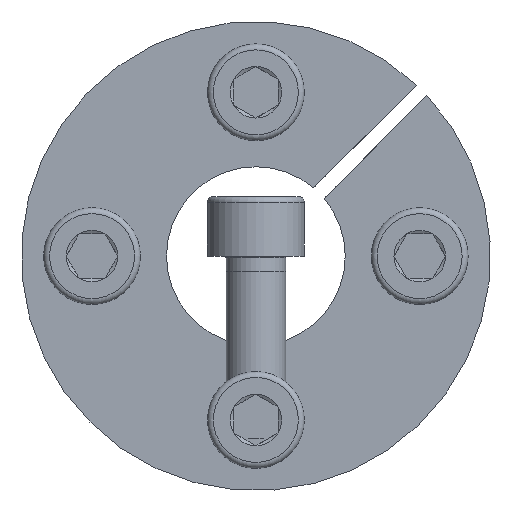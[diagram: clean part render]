
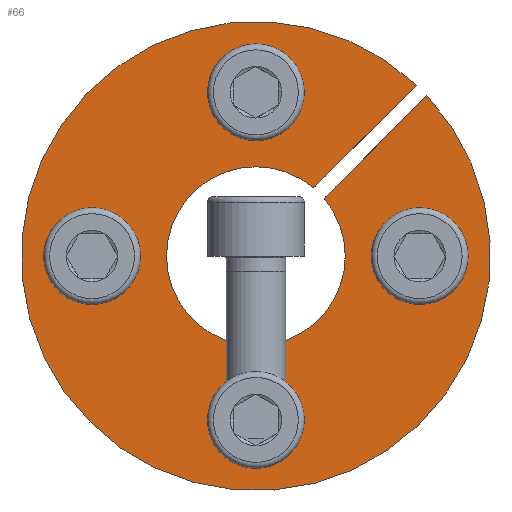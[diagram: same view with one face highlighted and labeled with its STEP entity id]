
A CAD part, front view. The second image highlights one B-rep face of the part: STEP entity #66.
In plain terms, the highlighted planar face has unit normal (0, -1, 0).
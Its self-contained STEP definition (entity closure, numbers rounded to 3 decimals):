
#66 = ADVANCED_FACE( '', ( #139, #140, #141, #142, #143 ), #144, .F. );
#139 = FACE_OUTER_BOUND( '', #245, .T. );
#140 = FACE_BOUND( '', #246, .T. );
#141 = FACE_BOUND( '', #247, .T. );
#142 = FACE_BOUND( '', #248, .T. );
#143 = FACE_BOUND( '', #249, .T. );
#144 = PLANE( '', #250 );
#245 = EDGE_LOOP( '', ( #380, #381, #382, #383 ) );
#246 = EDGE_LOOP( '', ( #384 ) );
#247 = EDGE_LOOP( '', ( #385 ) );
#248 = EDGE_LOOP( '', ( #386 ) );
#249 = EDGE_LOOP( '', ( #387 ) );
#250 = AXIS2_PLACEMENT_3D( '', #388, #389, #390 );
#380 = ORIENTED_EDGE( '', *, *, #606, .T. );
#381 = ORIENTED_EDGE( '', *, *, #607, .T. );
#382 = ORIENTED_EDGE( '', *, *, #608, .T. );
#383 = ORIENTED_EDGE( '', *, *, #609, .F. );
#384 = ORIENTED_EDGE( '', *, *, #610, .F. );
#385 = ORIENTED_EDGE( '', *, *, #611, .F. );
#386 = ORIENTED_EDGE( '', *, *, #612, .F. );
#387 = ORIENTED_EDGE( '', *, *, #613, .F. );
#388 = CARTESIAN_POINT( '', ( 0., 0., 31.5 ) );
#389 = DIRECTION( '', ( 0., 1., 0. ) );
#390 = DIRECTION( '', ( 1., 0., 0. ) );
#606 = EDGE_CURVE( '', #743, #744, #745, .T. );
#607 = EDGE_CURVE( '', #744, #746, #747, .T. );
#608 = EDGE_CURVE( '', #746, #748, #749, .T. );
#609 = EDGE_CURVE( '', #743, #748, #750, .T. );
#610 = EDGE_CURVE( '', #751, #751, #752, .T. );
#611 = EDGE_CURVE( '', #753, #753, #754, .T. );
#612 = EDGE_CURVE( '', #755, #755, #756, .T. );
#613 = EDGE_CURVE( '', #757, #757, #758, .T. );
#743 = VERTEX_POINT( '', #994 );
#744 = VERTEX_POINT( '', #995 );
#745 = LINE( '', #996, #997 );
#746 = VERTEX_POINT( '', #998 );
#747 = CIRCLE( '', #999, 31.5 );
#748 = VERTEX_POINT( '', #1000 );
#749 = LINE( '', #1001, #1002 );
#750 = CIRCLE( '', #1003, 12. );
#751 = VERTEX_POINT( '', #1004 );
#752 = CIRCLE( '', #1005, 4.5 );
#753 = VERTEX_POINT( '', #1006 );
#754 = CIRCLE( '', #1007, 4.5 );
#755 = VERTEX_POINT( '', #1008 );
#756 = CIRCLE( '', #1009, 4.5 );
#757 = VERTEX_POINT( '', #1010 );
#758 = CIRCLE( '', #1011, 4.5 );
#994 = CARTESIAN_POINT( '', ( 7.749, 0., 9.163 ) );
#995 = CARTESIAN_POINT( '', ( 21.556, 0., 22.97 ) );
#996 = CARTESIAN_POINT( '', ( 7.749, 0., 9.163 ) );
#997 = VECTOR( '', #1156, 1000. );
#998 = CARTESIAN_POINT( '', ( 22.97, 0., 21.556 ) );
#999 = AXIS2_PLACEMENT_3D( '', #1157, #1158, #1159 );
#1000 = CARTESIAN_POINT( '', ( 9.163, 0., 7.749 ) );
#1001 = CARTESIAN_POINT( '', ( 22.981, 0., 21.567 ) );
#1002 = VECTOR( '', #1160, 1000. );
#1003 = AXIS2_PLACEMENT_3D( '', #1161, #1162, #1163 );
#1004 = CARTESIAN_POINT( '', ( 4.5, 0., 22. ) );
#1005 = AXIS2_PLACEMENT_3D( '', #1164, #1165, #1166 );
#1006 = CARTESIAN_POINT( '', ( 22., 0., -4.5 ) );
#1007 = AXIS2_PLACEMENT_3D( '', #1167, #1168, #1169 );
#1008 = CARTESIAN_POINT( '', ( -4.5, 0., -22. ) );
#1009 = AXIS2_PLACEMENT_3D( '', #1170, #1171, #1172 );
#1010 = CARTESIAN_POINT( '', ( -22., 0., 4.5 ) );
#1011 = AXIS2_PLACEMENT_3D( '', #1173, #1174, #1175 );
#1156 = DIRECTION( '', ( 0.707, 0., 0.707 ) );
#1157 = CARTESIAN_POINT( '', ( 0., 0., 0. ) );
#1158 = DIRECTION( '', ( 0., -1., 0. ) );
#1159 = DIRECTION( '', ( 0., 0., -1. ) );
#1160 = DIRECTION( '', ( -0.707, 0., -0.707 ) );
#1161 = CARTESIAN_POINT( '', ( 0., 0., 0. ) );
#1162 = DIRECTION( '', ( 0., -1., 0. ) );
#1163 = DIRECTION( '', ( 0., 0., -1. ) );
#1164 = CARTESIAN_POINT( '', ( 0., 0., 22. ) );
#1165 = DIRECTION( '', ( 0., -1., 0. ) );
#1166 = DIRECTION( '', ( 1., 0., 0. ) );
#1167 = CARTESIAN_POINT( '', ( 22., 0., 0. ) );
#1168 = DIRECTION( '', ( 0., -1., 0. ) );
#1169 = DIRECTION( '', ( 0., 0., -1. ) );
#1170 = CARTESIAN_POINT( '', ( 0., 0., -22. ) );
#1171 = DIRECTION( '', ( 0., -1., 0. ) );
#1172 = DIRECTION( '', ( -1., 0., 0. ) );
#1173 = CARTESIAN_POINT( '', ( -22., 0., 0. ) );
#1174 = DIRECTION( '', ( 0., -1., 0. ) );
#1175 = DIRECTION( '', ( 0., 0., 1. ) );
